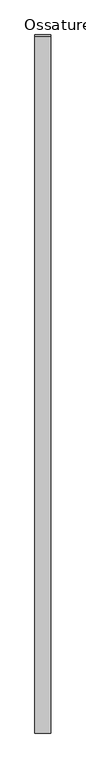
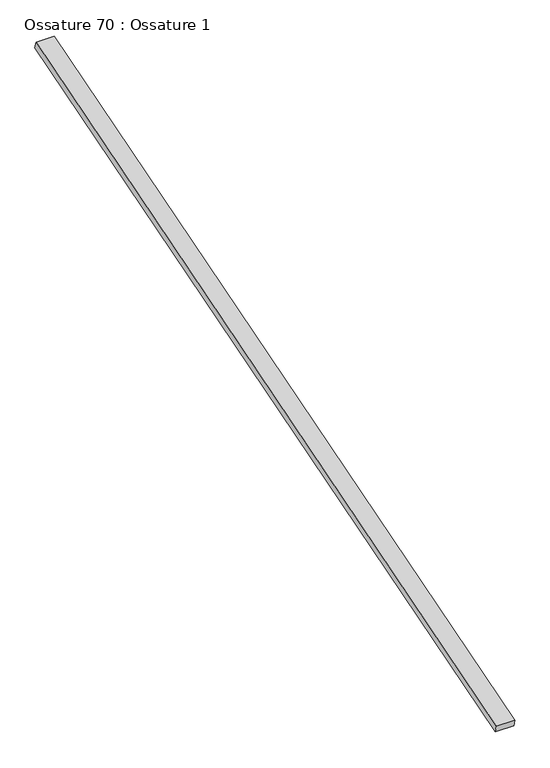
"""IFC4 building model written with IfcOpenShell, lengths in millimetres: beam geometry, Ossature 70 : Ossature 1."""

from ifc_helpers import new_model, si_unit, frame, origin, place, context, project, spatial, polyline, outline, extrude, source, transform, mapped, element, save


def ossature_70_ossature_1_8c2b1f02(model_context):
    return source(origin(), model_context, "Body", "SweptSolid", [
        extrude(outline(polyline([(0.0, 0.0), (0.0, -4543.0299679), (-100.0, -4543.0299679), (-100.0, 0.0), (0.0, 0.0)])), frame((16961.6466393, -833.3913565, 8153.6336115), z_axis=(0.0, -0.28734788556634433, 0.9578262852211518), x_axis=(-1.0, 0.0, 0.0)), (0.0, 0.0, 1.0), 40.0),
    ])


if __name__ == "__main__":
    model = new_model("IFC4")
    model_context = context("Model", 3, world=origin())
    ifc_project = project(units=[si_unit("LENGTHUNIT", "METRE", prefix="MILLI")], contexts=[model_context])
    site = spatial("IfcSite", under=ifc_project)
    building = spatial("IfcBuilding", under=site)
    placement = place(None, origin())
    ossature_70_ossature_1_shape = ossature_70_ossature_1_8c2b1f02(model_context)
    element("IfcBeam", 1, ObjectType="Ossature 70 : Ossature 1", at=placement, inside=building, context=model_context, shape_type="MappedRepresentation", body=[
        mapped(ossature_70_ossature_1_shape, transform((0.0, 0.0, 0.0), x_axis=(1.0, 0.0, 0.0), y_axis=(0.0, 1.0, 0.0), z_axis=(0.0, 0.0, 1.0))),
    ])
    save(model, "model.ifc")
